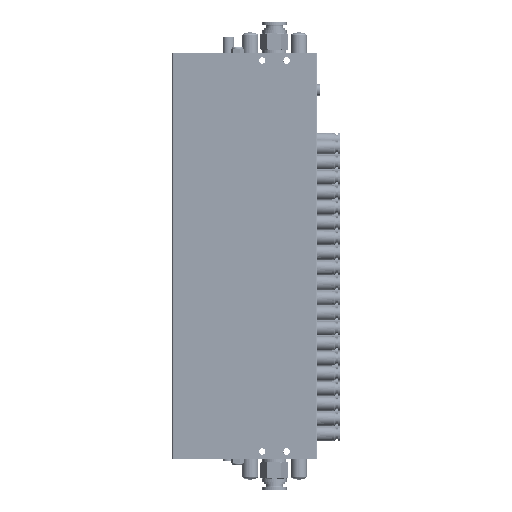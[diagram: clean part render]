
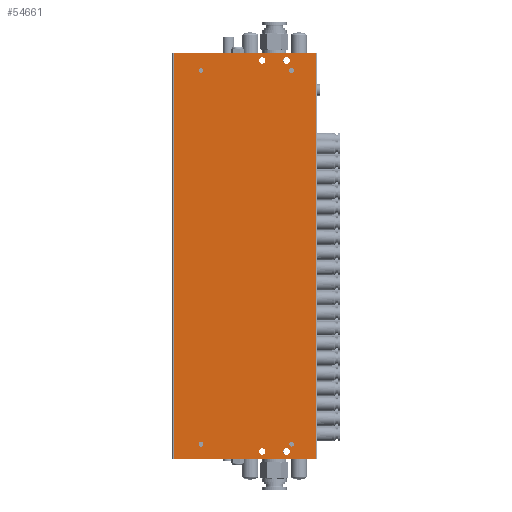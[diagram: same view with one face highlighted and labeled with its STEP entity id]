
A CAD part, front view. The second image highlights one B-rep face of the part: STEP entity #54661.
In plain terms, the highlighted planar face has unit normal (0, -1, 0).
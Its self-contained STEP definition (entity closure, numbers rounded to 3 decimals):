
#41661=FACE_BOUND('',#73999,.T.);
#41662=FACE_BOUND('',#74000,.T.);
#41663=FACE_BOUND('',#74001,.T.);
#41664=FACE_BOUND('',#74002,.T.);
#41665=FACE_BOUND('',#74003,.T.);
#41666=FACE_BOUND('',#74004,.T.);
#41667=FACE_BOUND('',#74005,.T.);
#41668=FACE_BOUND('',#74006,.T.);
#41669=FACE_BOUND('',#74007,.T.);
#46392=CIRCLE('',#178847,1.65);
#46393=CIRCLE('',#178849,1.65);
#46395=CIRCLE('',#178852,2.25);
#46396=CIRCLE('',#178854,2.25);
#46510=CIRCLE('',#179003,2.25);
#46511=CIRCLE('',#179004,2.25);
#46512=CIRCLE('',#179005,1.65);
#46513=CIRCLE('',#179006,1.65);
#54661=ADVANCED_FACE('',(#41661,#41662,#41663,#41664,#41665,#41666,#41667,
#41668,#41669),#62064,.T.);
#62064=PLANE('',#179007);
#73999=EDGE_LOOP('',(#91146,#91147,#91148,#91149));
#74000=EDGE_LOOP('',(#91150));
#74001=EDGE_LOOP('',(#91151));
#74002=EDGE_LOOP('',(#91152));
#74003=EDGE_LOOP('',(#91153));
#74004=EDGE_LOOP('',(#91154));
#74005=EDGE_LOOP('',(#91155));
#74006=EDGE_LOOP('',(#91156));
#74007=EDGE_LOOP('',(#91157));
#91146=ORIENTED_EDGE('',*,*,#136889,.T.);
#91147=ORIENTED_EDGE('',*,*,#136890,.T.);
#91148=ORIENTED_EDGE('',*,*,#136891,.T.);
#91149=ORIENTED_EDGE('',*,*,#136882,.F.);
#91150=ORIENTED_EDGE('',*,*,#136616,.F.);
#91151=ORIENTED_EDGE('',*,*,#136615,.F.);
#91152=ORIENTED_EDGE('',*,*,#136613,.F.);
#91153=ORIENTED_EDGE('',*,*,#136612,.T.);
#91154=ORIENTED_EDGE('',*,*,#136892,.F.);
#91155=ORIENTED_EDGE('',*,*,#136893,.F.);
#91156=ORIENTED_EDGE('',*,*,#136894,.F.);
#91157=ORIENTED_EDGE('',*,*,#136895,.T.);
#122853=VERTEX_POINT('',#249042);
#122854=VERTEX_POINT('',#249045);
#122856=VERTEX_POINT('',#249050);
#122857=VERTEX_POINT('',#249053);
#123092=VERTEX_POINT('',#250911);
#123093=VERTEX_POINT('',#250912);
#123098=VERTEX_POINT('',#250925);
#123099=VERTEX_POINT('',#250927);
#123100=VERTEX_POINT('',#250930);
#123101=VERTEX_POINT('',#250932);
#123102=VERTEX_POINT('',#250934);
#123103=VERTEX_POINT('',#250936);
#136612=EDGE_CURVE('',#122853,#122853,#46392,.T.);
#136613=EDGE_CURVE('',#122854,#122854,#46393,.T.);
#136615=EDGE_CURVE('',#122856,#122856,#46395,.T.);
#136616=EDGE_CURVE('',#122857,#122857,#46396,.T.);
#136882=EDGE_CURVE('',#123092,#123093,#153464,.T.);
#136889=EDGE_CURVE('',#123092,#123098,#153467,.T.);
#136890=EDGE_CURVE('',#123098,#123099,#153468,.T.);
#136891=EDGE_CURVE('',#123099,#123093,#153469,.T.);
#136892=EDGE_CURVE('',#123100,#123100,#46510,.T.);
#136893=EDGE_CURVE('',#123101,#123101,#46511,.T.);
#136894=EDGE_CURVE('',#123102,#123102,#46512,.T.);
#136895=EDGE_CURVE('',#123103,#123103,#46513,.T.);
#153464=LINE('',#250910,#162680);
#153467=LINE('',#250924,#162683);
#153468=LINE('',#250926,#162684);
#153469=LINE('',#250928,#162685);
#162680=VECTOR('',#201470,1.);
#162683=VECTOR('',#201483,1.);
#162684=VECTOR('',#201484,1.);
#162685=VECTOR('',#201485,1.);
#178847=AXIS2_PLACEMENT_3D('',#249041,#201033,#201034);
#178849=AXIS2_PLACEMENT_3D('',#249044,#201037,#201038);
#178852=AXIS2_PLACEMENT_3D('',#249049,#201043,#201044);
#178854=AXIS2_PLACEMENT_3D('',#249052,#201047,#201048);
#179003=AXIS2_PLACEMENT_3D('',#250929,#201486,#201487);
#179004=AXIS2_PLACEMENT_3D('',#250931,#201488,#201489);
#179005=AXIS2_PLACEMENT_3D('',#250933,#201490,#201491);
#179006=AXIS2_PLACEMENT_3D('',#250935,#201492,#201493);
#179007=AXIS2_PLACEMENT_3D('',#250937,#201494,#201495);
#201033=DIRECTION('',(0.,1.,0.));
#201034=DIRECTION('',(0.,0.,-1.));
#201037=DIRECTION('',(0.,-1.,0.));
#201038=DIRECTION('',(0.,0.,-1.));
#201043=DIRECTION('',(0.,-1.,0.));
#201044=DIRECTION('',(0.,0.,-1.));
#201047=DIRECTION('',(0.,-1.,0.));
#201048=DIRECTION('',(0.,0.,-1.));
#201470=DIRECTION('',(1.,0.,0.));
#201483=DIRECTION('',(0.,0.,-1.));
#201484=DIRECTION('',(1.,0.,0.));
#201485=DIRECTION('',(0.,0.,1.));
#201486=DIRECTION('',(0.,-1.,0.));
#201487=DIRECTION('',(0.,0.,-1.));
#201488=DIRECTION('',(0.,-1.,0.));
#201489=DIRECTION('',(0.,0.,-1.));
#201490=DIRECTION('',(0.,-1.,0.));
#201491=DIRECTION('',(0.,0.,-1.));
#201492=DIRECTION('',(0.,1.,0.));
#201493=DIRECTION('',(0.,0.,-1.));
#201494=DIRECTION('',(0.,-1.,0.));
#201495=DIRECTION('',(0.,0.,-1.));
#249041=CARTESIAN_POINT('',(-31.5,-23.,60.));
#249042=CARTESIAN_POINT('',(-31.5,-23.,58.35));
#249044=CARTESIAN_POINT('',(31.5,-23.,60.));
#249045=CARTESIAN_POINT('',(31.5,-23.,58.35));
#249049=CARTESIAN_POINT('',(11.,-23.,67.));
#249050=CARTESIAN_POINT('',(11.,-23.,64.75));
#249052=CARTESIAN_POINT('',(28.,-23.,67.));
#249053=CARTESIAN_POINT('',(28.,-23.,64.75));
#250910=CARTESIAN_POINT('',(52.5,-23.,72.));
#250911=CARTESIAN_POINT('',(-50.5,-23.,72.));
#250912=CARTESIAN_POINT('',(48.5,-23.,72.));
#250924=CARTESIAN_POINT('',(-50.5,-23.,-39.));
#250925=CARTESIAN_POINT('',(-50.5,-23.,-210.));
#250926=CARTESIAN_POINT('',(52.5,-23.,-210.));
#250927=CARTESIAN_POINT('',(48.5,-23.,-210.));
#250928=CARTESIAN_POINT('',(48.5,-23.,72.));
#250929=CARTESIAN_POINT('',(28.,-23.,-205.));
#250930=CARTESIAN_POINT('',(28.,-23.,-207.25));
#250931=CARTESIAN_POINT('',(11.,-23.,-205.));
#250932=CARTESIAN_POINT('',(11.,-23.,-207.25));
#250933=CARTESIAN_POINT('',(31.5,-23.,-200.));
#250934=CARTESIAN_POINT('',(31.5,-23.,-201.65));
#250935=CARTESIAN_POINT('',(-31.5,-23.,-200.));
#250936=CARTESIAN_POINT('',(-31.5,-23.,-201.65));
#250937=CARTESIAN_POINT('',(-52.5,-23.,-39.));
